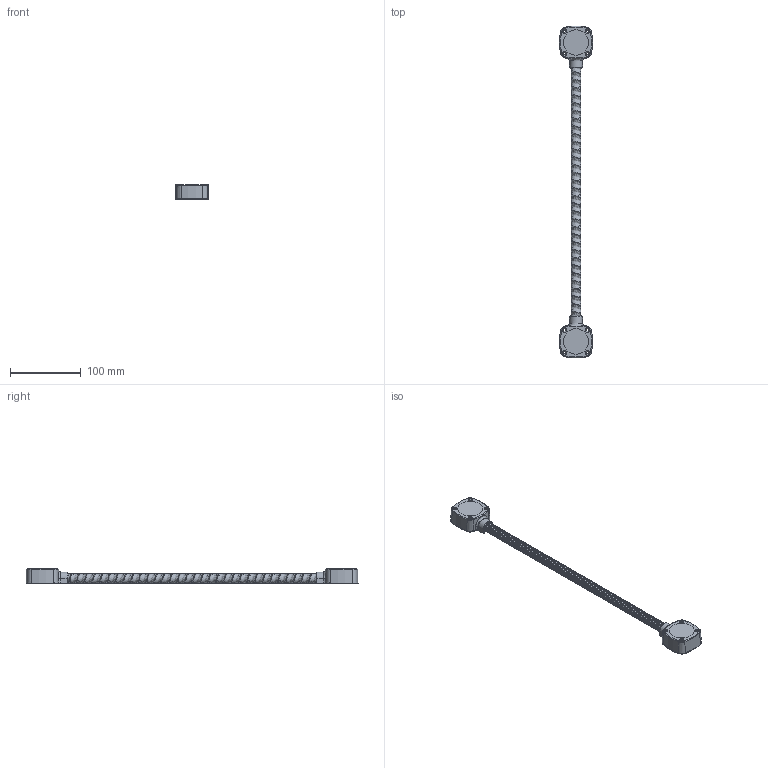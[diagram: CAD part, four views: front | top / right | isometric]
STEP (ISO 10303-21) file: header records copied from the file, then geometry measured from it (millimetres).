
FILE_DESCRIPTION((''),'2;1');
FILE_NAME('S:\Projekte\00 00 Datenarchiv\00.50- Kabelübergänge\M 12 85.stp','2011-09-14T11:27:32',('jsuarez'),(''),'Autodesk Inventor 2012','Autodesk Inventor 2012','');
FILE_SCHEMA(('AUTOMOTIVE_DESIGN { 1 0 10303 214 1 1 1 1 }'));
Length unit declared in the file: millimetre
Products named in the file (1): Bauteil3
Bounding box: 46.64 x 468.64 x 21 mm (x, y, z)
Volume: 42212.3 mm3; surface area: 69819.4 mm2
Topology: 6 solids, 6 shells, 456 faces, 1136 edges, 700 vertices
Faces by surface type: plane 130, cylinder 95, cone 80, bspline 75, torus 68, sphere 8
Full cylindrical faces by diameter (mm): 1 x11, 1.6 x8, 2.3 x2, 4.3 x2, 6.5 x8, 11.7 x2
Entity records: 37594 total; most frequent: CARTESIAN_POINT 27001, DIRECTION 2064, ORIENTED_EDGE 1982, EDGE_CURVE 991, AXIS2_PLACEMENT_3D 863, VERTEX_POINT 676, EDGE_LOOP 629, FACE_OUTER_BOUND 456
